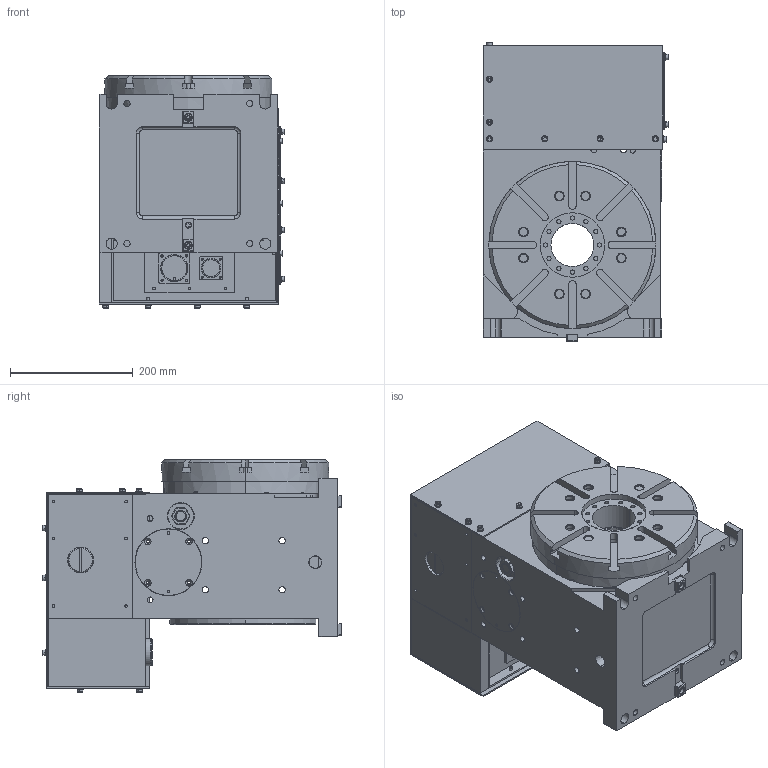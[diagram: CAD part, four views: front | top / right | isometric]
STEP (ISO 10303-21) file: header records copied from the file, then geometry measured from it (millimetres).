
FILE_DESCRIPTION (( 'STEP AP203' ), '1' );
FILE_NAME ('15091563-MDU253L.STEP', '2020-11-25T23:15:39', ( '' ), ( '' ), 'SwSTEP 2.0', 'SolidWorks 2019', '' );
FILE_SCHEMA (( 'CONFIG_CONTROL_DESIGN' ));
Length unit declared in the file: millimetre
Products named in the file (1): 15091563-MDU253L
Bounding box: 301.6 x 487.3 x 378 mm (x, y, z)
Surface area: 1144644.4 mm2 (no closed solid volume)
Topology: 0 solids, 109 shells, 956 faces, 3032 edges, 2179 vertices
Faces by surface type: cylinder 425, plane 373, cone 152, torus 6
Entity records: 34752 total; most frequent: CARTESIAN_POINT 6869, DIRECTION 6292, ORIENTED_EDGE 4750, EDGE_CURVE 3032, AXIS2_PLACEMENT_3D 2355, VERTEX_POINT 2179, VECTOR 1582, LINE 1582
